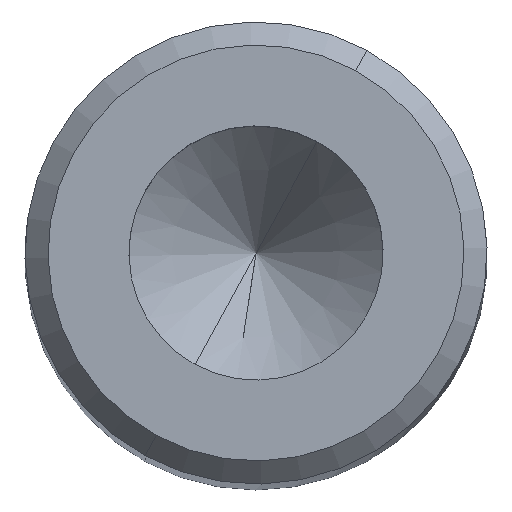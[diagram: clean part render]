
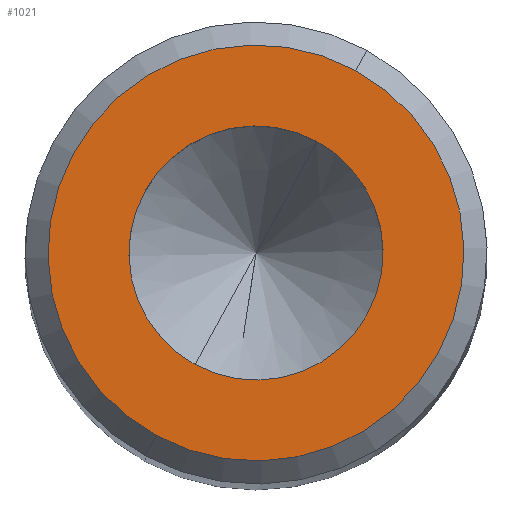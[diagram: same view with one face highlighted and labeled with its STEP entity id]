
A CAD part, top view. The second image highlights one B-rep face of the part: STEP entity #1021.
In plain terms, the highlighted planar face has unit normal (0, 0, 1).
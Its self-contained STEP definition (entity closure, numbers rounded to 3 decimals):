
#972=AXIS2_PLACEMENT_3D('Circle Axis2P3D',#970,#971,$) ;
#992=AXIS2_PLACEMENT_3D('Plane Axis2P3D',#989,#990,#991) ;
#996=AXIS2_PLACEMENT_3D('Circle Axis2P3D',#994,#995,$) ;
#1005=AXIS2_PLACEMENT_3D('Circle Axis2P3D',#1003,#1004,$) ;
#1014=AXIS2_PLACEMENT_3D('Circle Axis2P3D',#1012,#1013,$) ;
#967=CARTESIAN_POINT('Vertex',(4.315,7.898,0.)) ;
#970=CARTESIAN_POINT('Axis2P3D Location',(0.,0.,0.)) ;
#974=CARTESIAN_POINT('Vertex',(-4.315,-7.898,0.)) ;
#989=CARTESIAN_POINT('Axis2P3D Location',(0.,9.,0.)) ;
#994=CARTESIAN_POINT('Axis2P3D Location',(0.,0.,0.)) ;
#1003=CARTESIAN_POINT('Axis2P3D Location',(0.,0.,0.)) ;
#1007=CARTESIAN_POINT('Vertex',(2.637,4.827,0.)) ;
#1009=CARTESIAN_POINT('Vertex',(-2.637,-4.827,0.)) ;
#1012=CARTESIAN_POINT('Axis2P3D Location',(0.,0.,0.)) ;
#971=DIRECTION('Axis2P3D Direction',(0.,0.,-1.)) ;
#990=DIRECTION('Axis2P3D Direction',(0.,0.,-1.)) ;
#991=DIRECTION('Axis2P3D XDirection',(1.,0.,0.)) ;
#995=DIRECTION('Axis2P3D Direction',(0.,0.,-1.)) ;
#1004=DIRECTION('Axis2P3D Direction',(0.,0.,-1.)) ;
#1013=DIRECTION('Axis2P3D Direction',(0.,0.,-1.)) ;
#1000=ORIENTED_EDGE('',*,*,#976,.F.) ;
#1001=ORIENTED_EDGE('',*,*,#998,.F.) ;
#1018=ORIENTED_EDGE('',*,*,#1011,.T.) ;
#1019=ORIENTED_EDGE('',*,*,#1016,.T.) ;
#1020=FACE_BOUND('',#1017,.T.) ;
#1021=ADVANCED_FACE('NOCUT',(#1002,#1020),#993,.F.) ;
#973=CIRCLE('generated circle',#972,9.) ;
#997=CIRCLE('generated circle',#996,9.) ;
#1006=CIRCLE('generated circle',#1005,5.5) ;
#1015=CIRCLE('generated circle',#1014,5.5) ;
#976=EDGE_CURVE('',#968,#975,#973,.T.) ;
#998=EDGE_CURVE('',#975,#968,#997,.T.) ;
#1011=EDGE_CURVE('',#1008,#1010,#1006,.T.) ;
#1016=EDGE_CURVE('',#1010,#1008,#1015,.T.) ;
#999=EDGE_LOOP('',(#1000,#1001)) ;
#1017=EDGE_LOOP('',(#1018,#1019)) ;
#1002=FACE_OUTER_BOUND('',#999,.T.) ;
#993=PLANE('',#992) ;
#968=VERTEX_POINT('',#967) ;
#975=VERTEX_POINT('',#974) ;
#1008=VERTEX_POINT('',#1007) ;
#1010=VERTEX_POINT('',#1009) ;
